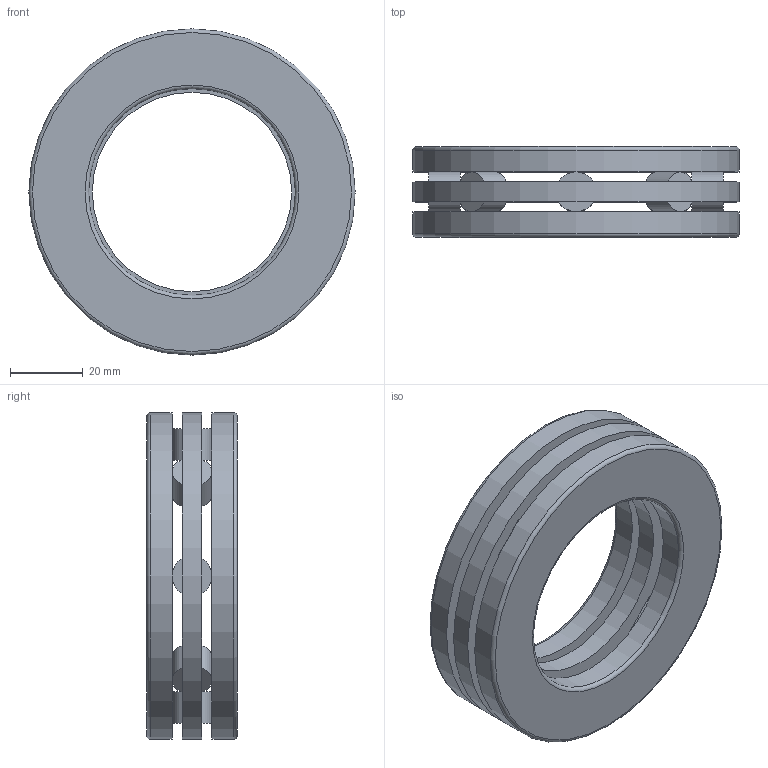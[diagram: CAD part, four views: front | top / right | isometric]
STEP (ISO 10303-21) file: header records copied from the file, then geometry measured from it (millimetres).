
FILE_DESCRIPTION(/* description */ (''),/* implementation_level */ '2;1');
FILE_NAME(/* name */ 'D:\moje\parametrické\812--\812--_\81211.stp',/* time_stamp */ '2016-08-16T14:39:18+02:00',/* author */ ('OUBALASKO'),/* organization */ (''),/* preprocessor_version */ 'ST-DEVELOPER v15.6',/* originating_system */ 'Autodesk Inventor 2015',/* authorisation */ '');
FILE_SCHEMA (('AUTOMOTIVE_DESIGN { 1 0 10303 214 3 1 1 }'));
Length unit declared in the file: millimetre
Products named in the file (6): GS81211; WS81211; 81211-cage; 81211-roller; K81211TNG; 81211
Assembly tree (12 placements, depth 3):
  81211
    GS81211
    WS81211
    K81211TNG
      81211-cage
      81211-roller  x8
Bounding box: 90 x 25 x 90 mm (x, y, z)
Volume: 78290.4 mm3; surface area: 36157.2 mm2
Topology: 11 solids, 11 shells, 72 faces, 146 edges, 96 vertices
Faces by surface type: plane 54, cylinder 14, torus 4
Full cylindrical faces by diameter (mm): 11 x8, 55 x2, 57 x1, 90 x3
Entity records: 1657 total; most frequent: DIRECTION 270, CARTESIAN_POINT 265, ORIENTED_EDGE 228, EDGE_CURVE 114, LINE 96, VECTOR 96, AXIS2_PLACEMENT_3D 87, EDGE_LOOP 84
